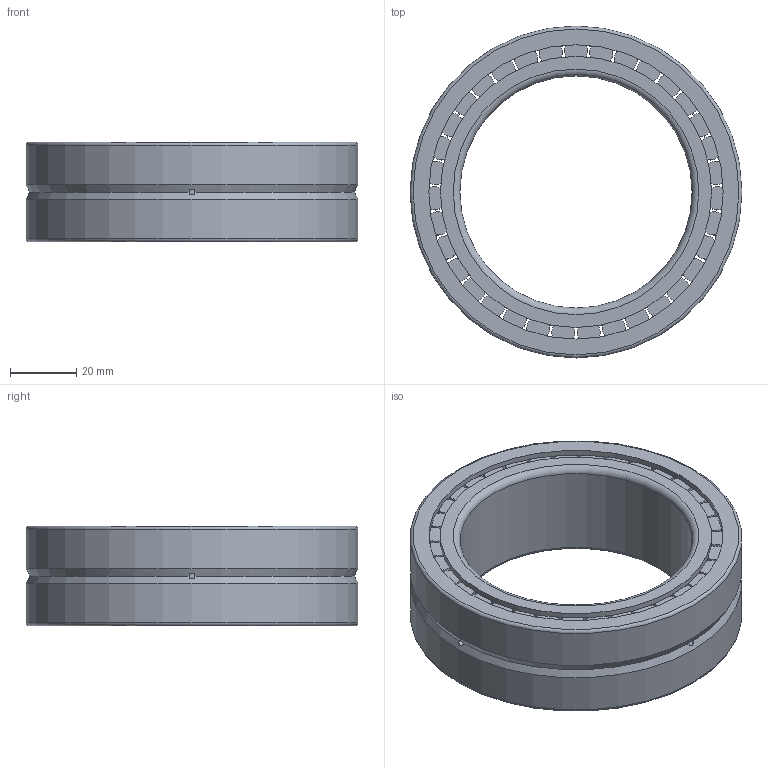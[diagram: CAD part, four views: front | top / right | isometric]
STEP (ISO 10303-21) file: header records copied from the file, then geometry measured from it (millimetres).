
FILE_DESCRIPTION(/* description */ (''),/* implementation_level */ '2;1');
FILE_NAME(/* name */ 'C:\Users\OUREHANEKD\Desktop\Ložiská\MODELY\JRVL\NNC\NNC49\NNC49--\NNC4914V.stp',/* time_stamp */ '2016-09-09T13:10:16+02:00',/* author */ ('OUREHANEKD'),/* organization */ (''),/* preprocessor_version */ 'ST-DEVELOPER v15.6',/* originating_system */ 'Autodesk Inventor 2015',/* authorisation */ '');
FILE_SCHEMA (('AUTOMOTIVE_DESIGN { 1 0 10303 214 3 1 1 }'));
Length unit declared in the file: millimetre
Products named in the file (4): NNC4914V-02; NNC4914V-roller; NNC4914V-01; NNC4914V
Assembly tree (37 placements, depth 2):
  NNC4914V
    NNC4914V-02
    NNC4914V-roller  x35
    NNC4914V-01
Bounding box: 100 x 100 x 30 mm (x, y, z)
Volume: 96655.3 mm3; surface area: 63445.6 mm2
Topology: 72 solids, 72 shells, 243 faces, 281 edges, 182 vertices
Faces by surface type: plane 150, cylinder 85, torus 4, cone 4
Full cylindrical faces by diameter (mm): 1.8 x3, 7 x70, 70 x1, 78.2 x2, 81.7 x3, 88.7 x2, 92.2 x2, 100 x2
Entity records: 1445 total; most frequent: CARTESIAN_POINT 408, DIRECTION 236, AXIS2_PLACEMENT_3D 118, ORIENTED_EDGE 100, EDGE_LOOP 74, EDGE_CURVE 50, VERTEX_POINT 44, PRODUCT_DEFINITION_SHAPE 41
